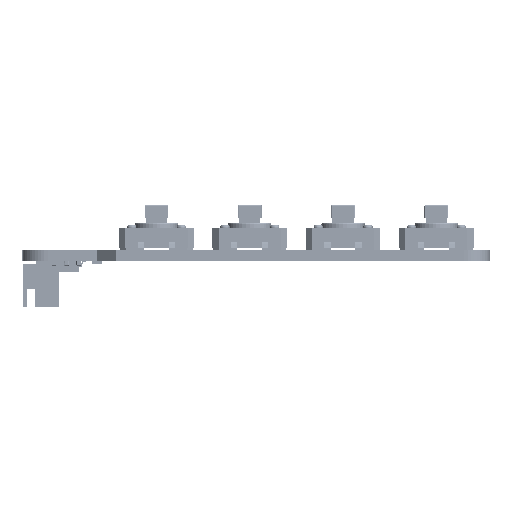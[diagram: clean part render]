
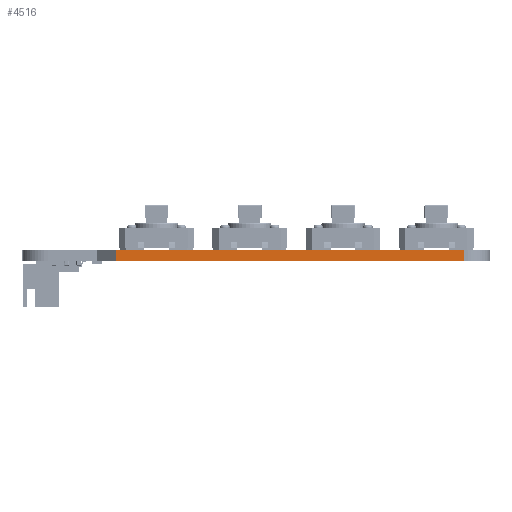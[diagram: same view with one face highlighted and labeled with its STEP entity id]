
A CAD part, left-side view. The second image highlights one B-rep face of the part: STEP entity #4516.
In plain terms, the highlighted planar face has unit normal (-1, 0, 0).
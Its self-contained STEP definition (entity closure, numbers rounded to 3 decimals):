
#167 = PLANE('',#168);
#168 = AXIS2_PLACEMENT_3D('',#169,#170,#171);
#169 = CARTESIAN_POINT('',(-0.127,4.,0.));
#170 = DIRECTION('',(0.999,0.049,0.));
#171 = DIRECTION('',(0.049,-0.999,0.));
#195 = PLANE('',#196);
#196 = AXIS2_PLACEMENT_3D('',#197,#198,#199);
#197 = CARTESIAN_POINT('',(-0.101,3.46,1.691));
#198 = DIRECTION('',(0.,0.,-1.));
#199 = DIRECTION('',(-1.,0.,0.));
#249 = PLANE('',#250);
#250 = AXIS2_PLACEMENT_3D('',#251,#252,#253);
#251 = CARTESIAN_POINT('',(-0.101,3.46,0.));
#252 = DIRECTION('',(0.,0.,-1.));
#253 = DIRECTION('',(-1.,0.,0.));
#4408 = PLANE('',#4409);
#4409 = AXIS2_PLACEMENT_3D('',#4410,#4411,#4412);
#4410 = CARTESIAN_POINT('',(-0.09,60.09,0.));
#4411 = DIRECTION('',(0.883,-0.469,0.));
#4412 = DIRECTION('',(-0.469,-0.883,0.));
#4446 = VERTEX_POINT('',#4447);
#4447 = CARTESIAN_POINT('',(-0.138,60.,1.691));
#4468 = EDGE_CURVE('',#4469,#4446,#4471,.T.);
#4469 = VERTEX_POINT('',#4470);
#4470 = CARTESIAN_POINT('',(-0.138,60.,0.));
#4471 = SURFACE_CURVE('',#4472,(#4476,#4483),.PCURVE_S1.);
#4472 = LINE('',#4473,#4474);
#4473 = CARTESIAN_POINT('',(-0.138,60.,0.));
#4474 = VECTOR('',#4475,1.);
#4475 = DIRECTION('',(0.,0.,1.));
#4476 = PCURVE('',#4408,#4477);
#4477 = DEFINITIONAL_REPRESENTATION('',(#4478),#4482);
#4478 = LINE('',#4479,#4480);
#4479 = CARTESIAN_POINT('',(0.102,0.));
#4480 = VECTOR('',#4481,1.);
#4481 = DIRECTION('',(0.,-1.));
#4482 = ( GEOMETRIC_REPRESENTATION_CONTEXT(2) 
PARAMETRIC_REPRESENTATION_CONTEXT() REPRESENTATION_CONTEXT('2D SPACE',''
  ) );
#4483 = PCURVE('',#4484,#4489);
#4484 = PLANE('',#4485);
#4485 = AXIS2_PLACEMENT_3D('',#4486,#4487,#4488);
#4486 = CARTESIAN_POINT('',(-0.138,60.,0.));
#4487 = DIRECTION('',(1.,0.,0.));
#4488 = DIRECTION('',(0.,-1.,0.));
#4489 = DEFINITIONAL_REPRESENTATION('',(#4490),#4494);
#4490 = LINE('',#4491,#4492);
#4491 = CARTESIAN_POINT('',(0.,0.));
#4492 = VECTOR('',#4493,1.);
#4493 = DIRECTION('',(0.,-1.));
#4494 = ( GEOMETRIC_REPRESENTATION_CONTEXT(2) 
PARAMETRIC_REPRESENTATION_CONTEXT() REPRESENTATION_CONTEXT('2D SPACE',''
  ) );
#4516 = ADVANCED_FACE('',(#4517),#4484,.F.);
#4517 = FACE_BOUND('',#4518,.F.);
#4518 = EDGE_LOOP('',(#4519,#4520,#4543,#4566));
#4519 = ORIENTED_EDGE('',*,*,#4468,.T.);
#4520 = ORIENTED_EDGE('',*,*,#4521,.T.);
#4521 = EDGE_CURVE('',#4446,#4522,#4524,.T.);
#4522 = VERTEX_POINT('',#4523);
#4523 = CARTESIAN_POINT('',(-0.127,4.,1.691));
#4524 = SURFACE_CURVE('',#4525,(#4529,#4536),.PCURVE_S1.);
#4525 = LINE('',#4526,#4527);
#4526 = CARTESIAN_POINT('',(-0.138,60.,1.691));
#4527 = VECTOR('',#4528,1.);
#4528 = DIRECTION('',(0.,-1.,0.));
#4529 = PCURVE('',#4484,#4530);
#4530 = DEFINITIONAL_REPRESENTATION('',(#4531),#4535);
#4531 = LINE('',#4532,#4533);
#4532 = CARTESIAN_POINT('',(0.,-1.691));
#4533 = VECTOR('',#4534,1.);
#4534 = DIRECTION('',(1.,0.));
#4535 = ( GEOMETRIC_REPRESENTATION_CONTEXT(2) 
PARAMETRIC_REPRESENTATION_CONTEXT() REPRESENTATION_CONTEXT('2D SPACE',''
  ) );
#4536 = PCURVE('',#195,#4537);
#4537 = DEFINITIONAL_REPRESENTATION('',(#4538),#4542);
#4538 = LINE('',#4539,#4540);
#4539 = CARTESIAN_POINT('',(0.037,56.54));
#4540 = VECTOR('',#4541,1.);
#4541 = DIRECTION('',(0.,-1.));
#4542 = ( GEOMETRIC_REPRESENTATION_CONTEXT(2) 
PARAMETRIC_REPRESENTATION_CONTEXT() REPRESENTATION_CONTEXT('2D SPACE',''
  ) );
#4543 = ORIENTED_EDGE('',*,*,#4544,.F.);
#4544 = EDGE_CURVE('',#4545,#4522,#4547,.T.);
#4545 = VERTEX_POINT('',#4546);
#4546 = CARTESIAN_POINT('',(-0.127,4.,0.));
#4547 = SURFACE_CURVE('',#4548,(#4552,#4559),.PCURVE_S1.);
#4548 = LINE('',#4549,#4550);
#4549 = CARTESIAN_POINT('',(-0.127,4.,0.));
#4550 = VECTOR('',#4551,1.);
#4551 = DIRECTION('',(0.,0.,1.));
#4552 = PCURVE('',#4484,#4553);
#4553 = DEFINITIONAL_REPRESENTATION('',(#4554),#4558);
#4554 = LINE('',#4555,#4556);
#4555 = CARTESIAN_POINT('',(56.,0.));
#4556 = VECTOR('',#4557,1.);
#4557 = DIRECTION('',(0.,-1.));
#4558 = ( GEOMETRIC_REPRESENTATION_CONTEXT(2) 
PARAMETRIC_REPRESENTATION_CONTEXT() REPRESENTATION_CONTEXT('2D SPACE',''
  ) );
#4559 = PCURVE('',#167,#4560);
#4560 = DEFINITIONAL_REPRESENTATION('',(#4561),#4565);
#4561 = LINE('',#4562,#4563);
#4562 = CARTESIAN_POINT('',(0.,0.));
#4563 = VECTOR('',#4564,1.);
#4564 = DIRECTION('',(0.,-1.));
#4565 = ( GEOMETRIC_REPRESENTATION_CONTEXT(2) 
PARAMETRIC_REPRESENTATION_CONTEXT() REPRESENTATION_CONTEXT('2D SPACE',''
  ) );
#4566 = ORIENTED_EDGE('',*,*,#4567,.F.);
#4567 = EDGE_CURVE('',#4469,#4545,#4568,.T.);
#4568 = SURFACE_CURVE('',#4569,(#4573,#4580),.PCURVE_S1.);
#4569 = LINE('',#4570,#4571);
#4570 = CARTESIAN_POINT('',(-0.138,60.,0.));
#4571 = VECTOR('',#4572,1.);
#4572 = DIRECTION('',(0.,-1.,0.));
#4573 = PCURVE('',#4484,#4574);
#4574 = DEFINITIONAL_REPRESENTATION('',(#4575),#4579);
#4575 = LINE('',#4576,#4577);
#4576 = CARTESIAN_POINT('',(0.,0.));
#4577 = VECTOR('',#4578,1.);
#4578 = DIRECTION('',(1.,0.));
#4579 = ( GEOMETRIC_REPRESENTATION_CONTEXT(2) 
PARAMETRIC_REPRESENTATION_CONTEXT() REPRESENTATION_CONTEXT('2D SPACE',''
  ) );
#4580 = PCURVE('',#249,#4581);
#4581 = DEFINITIONAL_REPRESENTATION('',(#4582),#4586);
#4582 = LINE('',#4583,#4584);
#4583 = CARTESIAN_POINT('',(0.037,56.54));
#4584 = VECTOR('',#4585,1.);
#4585 = DIRECTION('',(0.,-1.));
#4586 = ( GEOMETRIC_REPRESENTATION_CONTEXT(2) 
PARAMETRIC_REPRESENTATION_CONTEXT() REPRESENTATION_CONTEXT('2D SPACE',''
  ) );
